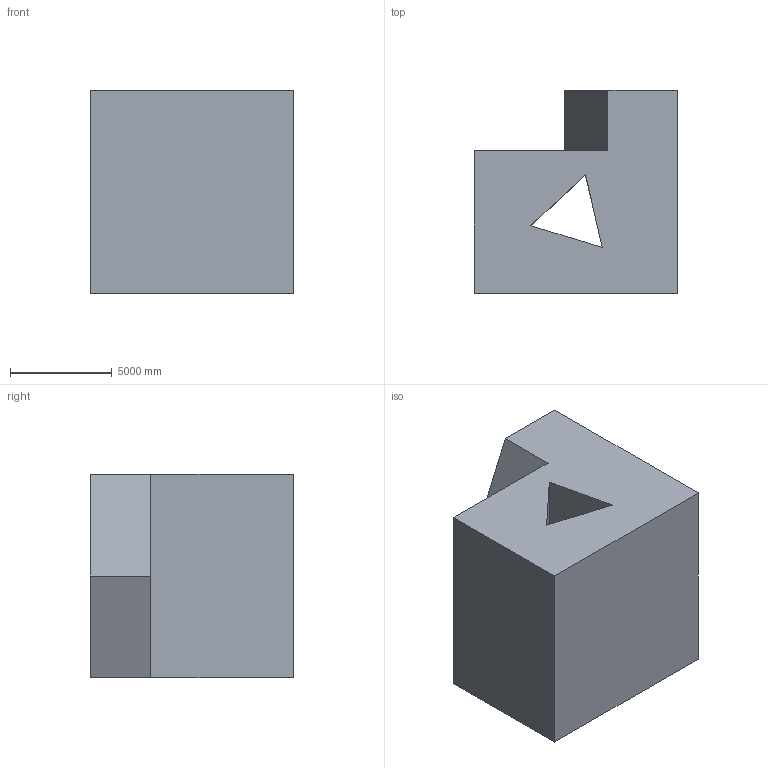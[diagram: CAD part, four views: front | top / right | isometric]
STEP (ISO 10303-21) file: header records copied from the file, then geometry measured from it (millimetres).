
FILE_DESCRIPTION (( 'STEP AP203' ), '1' );
FILE_NAME ('50.STEP', '2022-07-28T13:29:38', ( 'user' ), ( '' ), 'SwSTEP 2.0', 'SolidWorks 2021', '' );
FILE_SCHEMA (( 'CONFIG_CONTROL_DESIGN' ));
Length unit declared in the file: centimetre
Products named in the file (1): 50
Bounding box: 10000 x 10000 x 10000 mm (x, y, z)
Volume: 778587354503.8 mm3; surface area: 662194594 mm2
Topology: 1 solids, 1 shells, 12 faces, 30 edges, 20 vertices
Faces by surface type: plane 12
Entity records: 435 total; most frequent: CARTESIAN_POINT 63, ORIENTED_EDGE 60, DIRECTION 56, EDGE_CURVE 30, LINE 30, VECTOR 30, VERTEX_POINT 20, EDGE_LOOP 14
